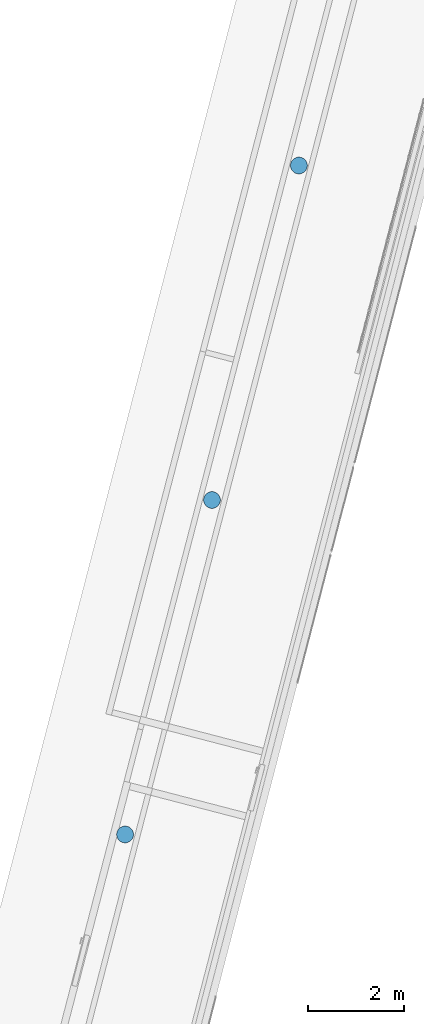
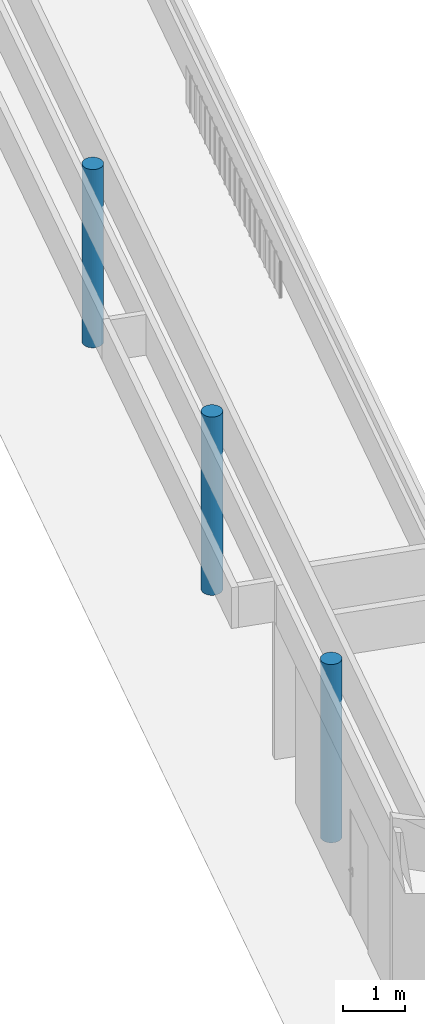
# One storey, part 2 of 9: 3 columns.
"""IFC2X3 building model written with IfcOpenShell, lengths in millimetres."""

from ifc_helpers import new_model, entity, si_unit, converted_unit, derived_unit, direction, frame, origin, origin_with_axes, place, context, subcontext, project, spatial, faceted_brep, material, type_object, element, save


model = new_model("IFC2X3")

# Units and contexts
plan_context = context("Plan", 3, precision=1e-05, world=origin_with_axes())
model_context = context("Model", 3, precision=0.01, world=origin(), true_north=direction((6.12323399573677e-17, 1.0)))
body_context = subcontext(model_context, "Body", "Model", "MODEL_VIEW")
ifc_project = project(units=[converted_unit("PLANEANGLEUNIT", "DEGREE", entity("IfcPositiveLengthMeasure", 0.0174532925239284), si_unit("PLANEANGLEUNIT", "RADIAN"), dimensions=[0, 0, 0, 0, 0, 0, 0]), si_unit("AREAUNIT", "SQUARE_METRE"), si_unit("LENGTHUNIT", "METRE", prefix="MILLI"), si_unit("MASSUNIT", "GRAM", prefix="KILO"), si_unit("POWERUNIT", "WATT"), si_unit("PRESSUREUNIT", "PASCAL", prefix="KILO"), si_unit("FORCEUNIT", "NEWTON", prefix="KILO"), si_unit("ELECTRICVOLTAGEUNIT", "VOLT"), si_unit("ELECTRICCURRENTUNIT", "AMPERE"), si_unit("THERMODYNAMICTEMPERATUREUNIT", "DEGREE_CELSIUS"), si_unit("TIMEUNIT", "SECOND"), si_unit("VOLUMEUNIT", "CUBIC_METRE"), derived_unit("LINEARVELOCITYUNIT", [(si_unit("LENGTHUNIT", "METRE"), 1), (si_unit("TIMEUNIT", "SECOND"), -1)]), derived_unit("VOLUMETRICFLOWRATEUNIT", [(si_unit("VOLUMEUNIT", "CUBIC_METRE"), 1), (si_unit("TIMEUNIT", "SECOND"), -1)]), derived_unit("THERMALTRANSMITTANCEUNIT", [(si_unit("POWERUNIT", "WATT"), 1), (si_unit("THERMODYNAMICTEMPERATUREUNIT", "KELVIN"), -1), (si_unit("AREAUNIT", "SQUARE_METRE"), -1)]), derived_unit("SOUNDPRESSUREUNIT", [(si_unit("PRESSUREUNIT", "PASCAL"), 1)])], contexts=[model_context, plan_context])

# Site, building, storey
site_placement = place(None, frame((0.0, -2.21771188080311e-09, 0.0), z_axis=(0.0, 0.0, 1.0), x_axis=(0.266093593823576, -0.963947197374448, 0.0)))
site = spatial("IfcSite", under=ifc_project, at=site_placement, Name="ENZV", CompositionType="ELEMENT")
building_placement = place(site_placement, origin_with_axes())
building = spatial("IfcBuilding", under=site, at=building_placement, Name="ZV001", CompositionType="ELEMENT")
storey_placement = place(building_placement, frame((0.0, 0.0, 5100.0), z_axis=(0.0, 0.0, 1.0), x_axis=(1.0, 0.0, 0.0)))
storey = spatial("IfcBuildingStorey", under=building, at=storey_placement, Name="H01", CompositionType="ELEMENT", Elevation=5100.0)

# Columns
ifc_material = material(Name="Betong Plasstøpt - B35")
column_type = type_object("IfcColumnType", Name="Søyle Betong Sirkulær:350", PredefinedType="COLUMN", material=ifc_material)
column_1_placement = place(storey_placement, frame((-173318.434318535, 385936.043674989, -5100.0), z_axis=(0.0, 0.0, 1.0), x_axis=(0.866040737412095, -0.499973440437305, 0.0)))
element("IfcColumn", 1, at=column_1_placement, inside=storey, type_object=column_type, Name="Søyle Betong Sirkulær:350", ObjectType="Søyle Betong Sirkulær:350", context=body_context, shape_type="Brep", body=[
    faceted_brep([(172.341356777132, -30.3884310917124, 8600.0), (174.999999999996, -3.16979442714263e-13, 8600.0), (174.999999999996, -3.16979442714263e-13, 5100.0), (172.341356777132, -30.3884310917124, 5100.0), (172.341356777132, 30.3884310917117, 8600.0), (172.341356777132, 30.3884310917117, 5100.0), (164.44620863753, 59.8535250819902, 8600.0), (164.44620863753, 59.8535250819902, 5100.0), (151.554445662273, 87.4999999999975, 8600.0), (151.554445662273, 87.4999999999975, 5100.0), (134.057777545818, 112.487831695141, 8600.0), (134.057777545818, 112.487831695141, 5100.0), (112.487831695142, 134.057777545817, 8600.0), (112.487831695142, 134.057777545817, 5100.0), (87.4999999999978, 151.554445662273, 8600.0), (87.4999999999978, 151.554445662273, 5100.0), (59.8535250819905, 164.44620863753, 8600.0), (59.8535250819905, 164.44620863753, 5100.0), (30.3884310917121, 172.341356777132, 8600.0), (30.3884310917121, 172.341356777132, 5100.0), (1.42008719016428e-15, 174.999999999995, 8600.0), (1.42008719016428e-15, 174.999999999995, 5100.0), (-30.3884310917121, 172.341356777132, 8600.0), (-30.3884310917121, 172.341356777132, 5100.0), (-59.8535250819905, 164.44620863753, 8600.0), (-59.8535250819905, 164.44620863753, 5100.0), (-87.4999999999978, 151.554445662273, 8600.0), (-87.4999999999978, 151.554445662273, 5100.0), (-112.487831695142, 134.057777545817, 8600.0), (-112.487831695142, 134.057777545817, 5100.0), (-134.057777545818, 112.487831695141, 8600.0), (-134.057777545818, 112.487831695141, 5100.0), (-151.554445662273, 87.4999999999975, 8600.0), (-151.554445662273, 87.4999999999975, 5100.0), (-164.44620863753, 59.8535250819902, 8600.0), (-164.44620863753, 59.8535250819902, 5100.0), (-172.341356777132, 30.3884310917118, 8600.0), (-172.341356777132, 30.3884310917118, 5100.0), (-174.999999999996, -2.95548123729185e-13, 8600.0), (-174.999999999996, -2.95548123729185e-13, 5100.0), (-172.341356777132, -30.3884310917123, 8600.0), (-172.341356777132, -30.3884310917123, 5100.0), (-164.44620863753, -59.8535250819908, 8600.0), (-164.44620863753, -59.8535250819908, 5100.0), (-151.554445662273, -87.4999999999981, 8600.0), (-151.554445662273, -87.4999999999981, 5100.0), (-134.057777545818, -112.487831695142, 8600.0), (-134.057777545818, -112.487831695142, 5100.0), (-112.487831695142, -134.057777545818, 8600.0), (-112.487831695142, -134.057777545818, 5100.0), (-87.4999999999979, -151.554445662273, 8600.0), (-87.4999999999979, -151.554445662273, 5100.0), (-59.8535250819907, -164.44620863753, 8600.0), (-59.8535250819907, -164.44620863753, 5100.0), (-30.3884310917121, -172.341356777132, 8600.0), (-30.3884310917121, -172.341356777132, 5100.0), (-4.1442550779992e-14, -174.999999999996, 8600.0), (-4.1442550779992e-14, -174.999999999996, 5100.0), (30.388431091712, -172.341356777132, 8600.0), (30.388431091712, -172.341356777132, 5100.0), (59.8535250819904, -164.44620863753, 8600.0), (59.8535250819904, -164.44620863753, 5100.0), (87.4999999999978, -151.554445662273, 8600.0), (87.4999999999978, -151.554445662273, 5100.0), (112.487831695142, -134.057777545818, 8600.0), (112.487831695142, -134.057777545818, 5100.0), (134.057777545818, -112.487831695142, 8600.0), (134.057777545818, -112.487831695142, 5100.0), (151.554445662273, -87.4999999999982, 8600.0), (151.554445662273, -87.4999999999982, 5100.0), (164.44620863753, -59.853525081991, 8600.0), (164.44620863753, -59.853525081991, 5100.0)], [[[0, 1, 2, 3]], [[1, 4, 5, 2]], [[4, 6, 7, 5]], [[6, 8, 9, 7]], [[8, 10, 11, 9]], [[10, 12, 13, 11]], [[12, 14, 15, 13]], [[14, 16, 17, 15]], [[16, 18, 19, 17]], [[18, 20, 21, 19]], [[20, 22, 23, 21]], [[22, 24, 25, 23]], [[24, 26, 27, 25]], [[26, 28, 29, 27]], [[28, 30, 31, 29]], [[30, 32, 33, 31]], [[32, 34, 35, 33]], [[34, 36, 37, 35]], [[36, 38, 39, 37]], [[38, 40, 41, 39]], [[40, 42, 43, 41]], [[42, 44, 45, 43]], [[44, 46, 47, 45]], [[46, 48, 49, 47]], [[48, 50, 51, 49]], [[50, 52, 53, 51]], [[52, 54, 55, 53]], [[54, 56, 57, 55]], [[56, 58, 59, 57]], [[58, 60, 61, 59]], [[60, 62, 63, 61]], [[62, 64, 65, 63]], [[64, 66, 67, 65]], [[66, 68, 69, 67]], [[68, 70, 71, 69]], [[70, 0, 3, 71]], [[3, 2, 5, 7, 9, 11, 13, 15, 17, 19, 21, 23, 25, 27, 29, 31, 33, 35, 37, 39, 41, 43, 45, 47, 49, 51, 53, 55, 57, 59, 61, 63, 65, 67, 69, 71]], [[70, 68, 66, 64, 62, 60, 58, 56, 54, 52, 50, 48, 46, 44, 42, 40, 38, 36, 34, 32, 30, 28, 26, 24, 22, 20, 18, 16, 14, 12, 10, 8, 6, 4, 1, 0]]], orient=[[False], [False], [False], [False], [False], [False], [False], [False], [False], [False], [False], [False], [False], [False], [False], [False], [False], [False], [False], [False], [False], [False], [False], [False], [False], [False], [False], [False], [False], [False], [False], [False], [False], [False], [False], [False], [False], [False]]),
])
column_2_placement = place(storey_placement, frame((-167082.941009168, 382336.23490384, -5100.0), z_axis=(0.0, 0.0, 1.0), x_axis=(0.866040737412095, -0.499973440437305, 0.0)))
element("IfcColumn", 2, at=column_2_placement, inside=storey, type_object=column_type, Name="Søyle Betong Sirkulær:350", ObjectType="Søyle Betong Sirkulær:350", context=body_context, shape_type="Brep", body=[
    faceted_brep([(172.341356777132, -30.3884310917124, 8600.0), (174.999999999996, -3.16979442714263e-13, 8600.0), (174.999999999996, -3.16979442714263e-13, 5100.0), (172.341356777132, -30.3884310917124, 5100.0), (172.341356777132, 30.3884310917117, 8600.0), (172.341356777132, 30.3884310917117, 5100.0), (164.44620863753, 59.8535250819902, 8600.0), (164.44620863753, 59.8535250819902, 5100.0), (151.554445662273, 87.4999999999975, 8600.0), (151.554445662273, 87.4999999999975, 5100.0), (134.057777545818, 112.487831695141, 8600.0), (134.057777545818, 112.487831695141, 5100.0), (112.487831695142, 134.057777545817, 8600.0), (112.487831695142, 134.057777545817, 5100.0), (87.4999999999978, 151.554445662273, 8600.0), (87.4999999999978, 151.554445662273, 5100.0), (59.8535250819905, 164.44620863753, 8600.0), (59.8535250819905, 164.44620863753, 5100.0), (30.3884310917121, 172.341356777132, 8600.0), (30.3884310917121, 172.341356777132, 5100.0), (1.42008719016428e-15, 174.999999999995, 8600.0), (1.42008719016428e-15, 174.999999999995, 5100.0), (-30.3884310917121, 172.341356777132, 8600.0), (-30.3884310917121, 172.341356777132, 5100.0), (-59.8535250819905, 164.44620863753, 8600.0), (-59.8535250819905, 164.44620863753, 5100.0), (-87.4999999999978, 151.554445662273, 8600.0), (-87.4999999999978, 151.554445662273, 5100.0), (-112.487831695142, 134.057777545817, 8600.0), (-112.487831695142, 134.057777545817, 5100.0), (-134.057777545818, 112.487831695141, 8600.0), (-134.057777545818, 112.487831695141, 5100.0), (-151.554445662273, 87.4999999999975, 8600.0), (-151.554445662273, 87.4999999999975, 5100.0), (-164.44620863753, 59.8535250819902, 8600.0), (-164.44620863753, 59.8535250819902, 5100.0), (-172.341356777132, 30.3884310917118, 8600.0), (-172.341356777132, 30.3884310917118, 5100.0), (-174.999999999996, -2.95548123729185e-13, 8600.0), (-174.999999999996, -2.95548123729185e-13, 5100.0), (-172.341356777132, -30.3884310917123, 8600.0), (-172.341356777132, -30.3884310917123, 5100.0), (-164.44620863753, -59.8535250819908, 8600.0), (-164.44620863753, -59.8535250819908, 5100.0), (-151.554445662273, -87.4999999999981, 8600.0), (-151.554445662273, -87.4999999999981, 5100.0), (-134.057777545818, -112.487831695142, 8600.0), (-134.057777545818, -112.487831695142, 5100.0), (-112.487831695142, -134.057777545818, 8600.0), (-112.487831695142, -134.057777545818, 5100.0), (-87.4999999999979, -151.554445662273, 8600.0), (-87.4999999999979, -151.554445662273, 5100.0), (-59.8535250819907, -164.44620863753, 8600.0), (-59.8535250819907, -164.44620863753, 5100.0), (-30.3884310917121, -172.341356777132, 8600.0), (-30.3884310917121, -172.341356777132, 5100.0), (-4.1442550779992e-14, -174.999999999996, 8600.0), (-4.1442550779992e-14, -174.999999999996, 5100.0), (30.388431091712, -172.341356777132, 8600.0), (30.388431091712, -172.341356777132, 5100.0), (59.8535250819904, -164.44620863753, 8600.0), (59.8535250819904, -164.44620863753, 5100.0), (87.4999999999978, -151.554445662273, 8600.0), (87.4999999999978, -151.554445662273, 5100.0), (112.487831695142, -134.057777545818, 8600.0), (112.487831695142, -134.057777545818, 5100.0), (134.057777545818, -112.487831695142, 8600.0), (134.057777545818, -112.487831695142, 5100.0), (151.554445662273, -87.4999999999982, 8600.0), (151.554445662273, -87.4999999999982, 5100.0), (164.44620863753, -59.853525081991, 8600.0), (164.44620863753, -59.853525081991, 5100.0)], [[[0, 1, 2, 3]], [[1, 4, 5, 2]], [[4, 6, 7, 5]], [[6, 8, 9, 7]], [[8, 10, 11, 9]], [[10, 12, 13, 11]], [[12, 14, 15, 13]], [[14, 16, 17, 15]], [[16, 18, 19, 17]], [[18, 20, 21, 19]], [[20, 22, 23, 21]], [[22, 24, 25, 23]], [[24, 26, 27, 25]], [[26, 28, 29, 27]], [[28, 30, 31, 29]], [[30, 32, 33, 31]], [[32, 34, 35, 33]], [[34, 36, 37, 35]], [[36, 38, 39, 37]], [[38, 40, 41, 39]], [[40, 42, 43, 41]], [[42, 44, 45, 43]], [[44, 46, 47, 45]], [[46, 48, 49, 47]], [[48, 50, 51, 49]], [[50, 52, 53, 51]], [[52, 54, 55, 53]], [[54, 56, 57, 55]], [[56, 58, 59, 57]], [[58, 60, 61, 59]], [[60, 62, 63, 61]], [[62, 64, 65, 63]], [[64, 66, 67, 65]], [[66, 68, 69, 67]], [[68, 70, 71, 69]], [[70, 0, 3, 71]], [[3, 2, 5, 7, 9, 11, 13, 15, 17, 19, 21, 23, 25, 27, 29, 31, 33, 35, 37, 39, 41, 43, 45, 47, 49, 51, 53, 55, 57, 59, 61, 63, 65, 67, 69, 71]], [[70, 68, 66, 64, 62, 60, 58, 56, 54, 52, 50, 48, 46, 44, 42, 40, 38, 36, 34, 32, 30, 28, 26, 24, 22, 20, 18, 16, 14, 12, 10, 8, 6, 4, 1, 0]]], orient=[[False], [False], [False], [False], [False], [False], [False], [False], [False], [False], [False], [False], [False], [False], [False], [False], [False], [False], [False], [False], [False], [False], [False], [False], [False], [False], [False], [False], [False], [False], [False], [False], [False], [False], [False], [False], [False], [False]]),
])
column_3_placement = place(storey_placement, frame((-160847.447699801, 378736.426132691, -5100.0), z_axis=(0.0, 0.0, 1.0), x_axis=(0.866040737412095, -0.499973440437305, 0.0)))
element("IfcColumn", 3, at=column_3_placement, inside=storey, type_object=column_type, Name="Søyle Betong Sirkulær:350", ObjectType="Søyle Betong Sirkulær:350", context=body_context, shape_type="Brep", body=[
    faceted_brep([(172.341356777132, -30.3884310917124, 8600.0), (174.999999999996, -3.16979442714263e-13, 8600.0), (174.999999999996, -3.16979442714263e-13, 5100.0), (172.341356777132, -30.3884310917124, 5100.0), (172.341356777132, 30.3884310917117, 8600.0), (172.341356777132, 30.3884310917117, 5100.0), (164.44620863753, 59.8535250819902, 8600.0), (164.44620863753, 59.8535250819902, 5100.0), (151.554445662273, 87.4999999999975, 8600.0), (151.554445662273, 87.4999999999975, 5100.0), (134.057777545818, 112.487831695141, 8600.0), (134.057777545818, 112.487831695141, 5100.0), (112.487831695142, 134.057777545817, 8600.0), (112.487831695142, 134.057777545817, 5100.0), (87.4999999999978, 151.554445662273, 8600.0), (87.4999999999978, 151.554445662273, 5100.0), (59.8535250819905, 164.44620863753, 8600.0), (59.8535250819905, 164.44620863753, 5100.0), (30.3884310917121, 172.341356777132, 8600.0), (30.3884310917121, 172.341356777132, 5100.0), (1.42008719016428e-15, 174.999999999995, 8600.0), (1.42008719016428e-15, 174.999999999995, 5100.0), (-30.3884310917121, 172.341356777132, 8600.0), (-30.3884310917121, 172.341356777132, 5100.0), (-59.8535250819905, 164.44620863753, 8600.0), (-59.8535250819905, 164.44620863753, 5100.0), (-87.4999999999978, 151.554445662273, 8600.0), (-87.4999999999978, 151.554445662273, 5100.0), (-112.487831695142, 134.057777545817, 8600.0), (-112.487831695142, 134.057777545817, 5100.0), (-134.057777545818, 112.487831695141, 8600.0), (-134.057777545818, 112.487831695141, 5100.0), (-151.554445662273, 87.4999999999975, 8600.0), (-151.554445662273, 87.4999999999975, 5100.0), (-164.44620863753, 59.8535250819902, 8600.0), (-164.44620863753, 59.8535250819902, 5100.0), (-172.341356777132, 30.3884310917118, 8600.0), (-172.341356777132, 30.3884310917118, 5100.0), (-174.999999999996, -2.95548123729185e-13, 8600.0), (-174.999999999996, -2.95548123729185e-13, 5100.0), (-172.341356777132, -30.3884310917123, 8600.0), (-172.341356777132, -30.3884310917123, 5100.0), (-164.44620863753, -59.8535250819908, 8600.0), (-164.44620863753, -59.8535250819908, 5100.0), (-151.554445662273, -87.4999999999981, 8600.0), (-151.554445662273, -87.4999999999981, 5100.0), (-134.057777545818, -112.487831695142, 8600.0), (-134.057777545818, -112.487831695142, 5100.0), (-112.487831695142, -134.057777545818, 8600.0), (-112.487831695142, -134.057777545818, 5100.0), (-87.4999999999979, -151.554445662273, 8600.0), (-87.4999999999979, -151.554445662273, 5100.0), (-59.8535250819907, -164.44620863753, 8600.0), (-59.8535250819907, -164.44620863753, 5100.0), (-30.3884310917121, -172.341356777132, 8600.0), (-30.3884310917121, -172.341356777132, 5100.0), (-4.1442550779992e-14, -174.999999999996, 8600.0), (-4.1442550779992e-14, -174.999999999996, 5100.0), (30.388431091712, -172.341356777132, 8600.0), (30.388431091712, -172.341356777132, 5100.0), (59.8535250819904, -164.44620863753, 8600.0), (59.8535250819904, -164.44620863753, 5100.0), (87.4999999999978, -151.554445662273, 8600.0), (87.4999999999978, -151.554445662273, 5100.0), (112.487831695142, -134.057777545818, 8600.0), (112.487831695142, -134.057777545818, 5100.0), (134.057777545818, -112.487831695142, 8600.0), (134.057777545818, -112.487831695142, 5100.0), (151.554445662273, -87.4999999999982, 8600.0), (151.554445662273, -87.4999999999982, 5100.0), (164.44620863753, -59.853525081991, 8600.0), (164.44620863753, -59.853525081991, 5100.0)], [[[0, 1, 2, 3]], [[1, 4, 5, 2]], [[4, 6, 7, 5]], [[6, 8, 9, 7]], [[8, 10, 11, 9]], [[10, 12, 13, 11]], [[12, 14, 15, 13]], [[14, 16, 17, 15]], [[16, 18, 19, 17]], [[18, 20, 21, 19]], [[20, 22, 23, 21]], [[22, 24, 25, 23]], [[24, 26, 27, 25]], [[26, 28, 29, 27]], [[28, 30, 31, 29]], [[30, 32, 33, 31]], [[32, 34, 35, 33]], [[34, 36, 37, 35]], [[36, 38, 39, 37]], [[38, 40, 41, 39]], [[40, 42, 43, 41]], [[42, 44, 45, 43]], [[44, 46, 47, 45]], [[46, 48, 49, 47]], [[48, 50, 51, 49]], [[50, 52, 53, 51]], [[52, 54, 55, 53]], [[54, 56, 57, 55]], [[56, 58, 59, 57]], [[58, 60, 61, 59]], [[60, 62, 63, 61]], [[62, 64, 65, 63]], [[64, 66, 67, 65]], [[66, 68, 69, 67]], [[68, 70, 71, 69]], [[70, 0, 3, 71]], [[3, 2, 5, 7, 9, 11, 13, 15, 17, 19, 21, 23, 25, 27, 29, 31, 33, 35, 37, 39, 41, 43, 45, 47, 49, 51, 53, 55, 57, 59, 61, 63, 65, 67, 69, 71]], [[70, 68, 66, 64, 62, 60, 58, 56, 54, 52, 50, 48, 46, 44, 42, 40, 38, 36, 34, 32, 30, 28, 26, 24, 22, 20, 18, 16, 14, 12, 10, 8, 6, 4, 1, 0]]], orient=[[False], [False], [False], [False], [False], [False], [False], [False], [False], [False], [False], [False], [False], [False], [False], [False], [False], [False], [False], [False], [False], [False], [False], [False], [False], [False], [False], [False], [False], [False], [False], [False], [False], [False], [False], [False], [False], [False]]),
])

save(model, "model.ifc")
